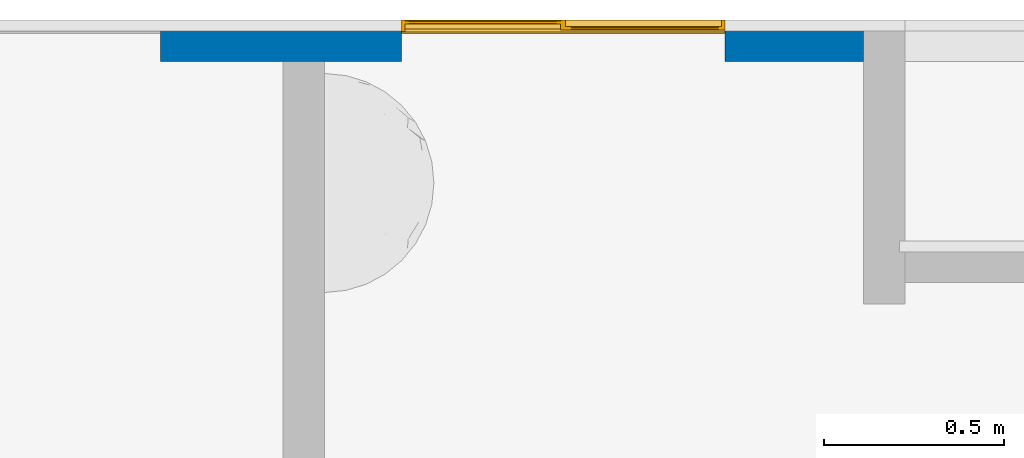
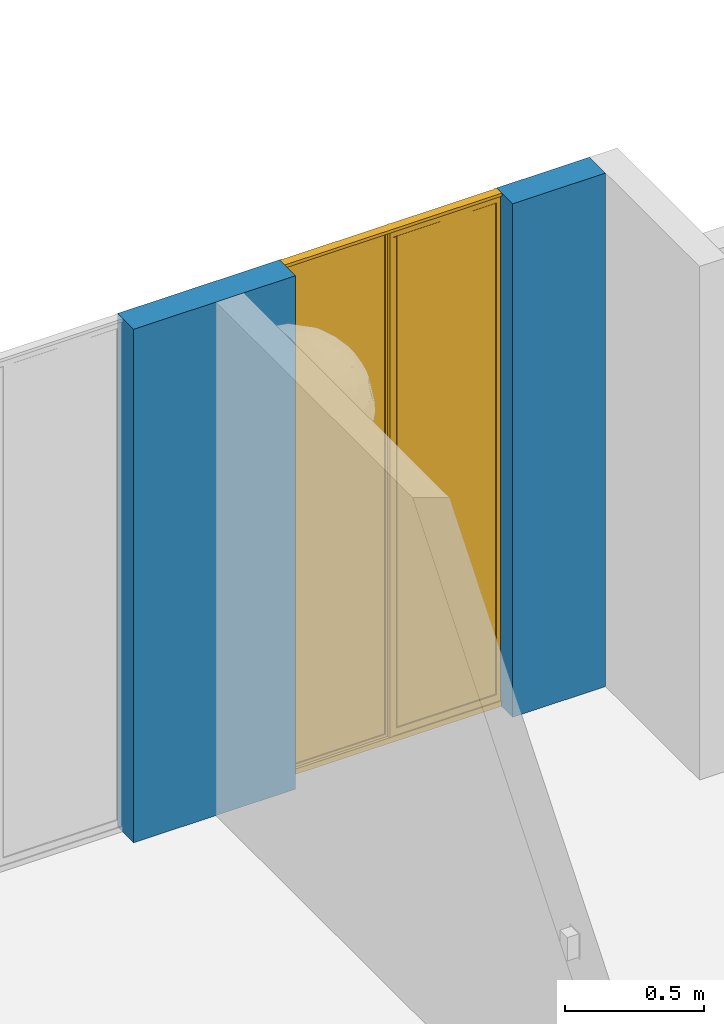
# One storey, part 18 of 51: 1 wall, 1 window, 2 openings.
"""IFC4 building model written with IfcOpenShell, lengths in metres."""

from ifc_helpers import new_model, entity, si_unit, converted_unit, derived_unit, direction, frame, origin, place, context, subcontext, project, spatial, indexed_curve, outline, extrude, polygons, source, transform, mapped, material, constituent, constituent_set, type_object, type_shapes, element, fill, save


model = new_model("IFC4")

# Units and contexts
model_context = context("Model", 3, precision=1e-05, world=origin(), true_north=direction((6.123031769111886e-17, 1.0)))
body_context = subcontext(model_context, "Body", "Model", "MODEL_VIEW")
ifc_project = project(units=[si_unit("LENGTHUNIT", "METRE"), si_unit("AREAUNIT", "SQUARE_METRE"), si_unit("VOLUMEUNIT", "CUBIC_METRE"), converted_unit("PLANEANGLEUNIT", "DEGREE", entity("IfcRatioMeasure", 0.017453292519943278), si_unit("PLANEANGLEUNIT", "RADIAN"), dimensions=[0, 0, 0, 0, 0, 0, 0]), si_unit("MASSUNIT", "GRAM", prefix="KILO"), derived_unit("MASSDENSITYUNIT", [(si_unit("MASSUNIT", "GRAM", prefix="KILO"), 1), (si_unit("LENGTHUNIT", "METRE"), -3)]), derived_unit("IONCONCENTRATIONUNIT", [(si_unit("MASSUNIT", "GRAM", prefix="KILO"), 1), (si_unit("LENGTHUNIT", "METRE"), -3)]), derived_unit("MOMENTOFINERTIAUNIT", [(si_unit("LENGTHUNIT", "METRE"), 4)]), si_unit("TIMEUNIT", "SECOND"), si_unit("FREQUENCYUNIT", "HERTZ"), si_unit("THERMODYNAMICTEMPERATUREUNIT", "DEGREE_CELSIUS"), derived_unit("THERMALTRANSMITTANCEUNIT", [(si_unit("MASSUNIT", "GRAM", prefix="KILO"), 1), (si_unit("THERMODYNAMICTEMPERATUREUNIT", "KELVIN"), -1), (si_unit("TIMEUNIT", "SECOND"), -3)]), derived_unit("THERMALCONDUCTANCEUNIT", [(si_unit("MASSUNIT", "GRAM", prefix="KILO"), 1), (si_unit("THERMODYNAMICTEMPERATUREUNIT", "KELVIN"), -1), (si_unit("TIMEUNIT", "SECOND"), -3), (si_unit("LENGTHUNIT", "METRE"), 1)]), derived_unit("VOLUMETRICFLOWRATEUNIT", [(si_unit("LENGTHUNIT", "METRE"), 3), (si_unit("TIMEUNIT", "SECOND"), -1)]), derived_unit("MASSFLOWRATEUNIT", [(si_unit("MASSUNIT", "GRAM", prefix="KILO"), 1), (si_unit("TIMEUNIT", "SECOND"), -1)]), derived_unit("ROTATIONALFREQUENCYUNIT", [(si_unit("TIMEUNIT", "SECOND"), -1)]), si_unit("ELECTRICCURRENTUNIT", "AMPERE"), si_unit("ELECTRICVOLTAGEUNIT", "VOLT"), si_unit("POWERUNIT", "WATT"), si_unit("FORCEUNIT", "NEWTON", prefix="KILO"), si_unit("ILLUMINANCEUNIT", "LUX"), si_unit("LUMINOUSFLUXUNIT", "LUMEN"), si_unit("LUMINOUSINTENSITYUNIT", "CANDELA"), derived_unit("USERDEFINED", [(si_unit("MASSUNIT", "GRAM", prefix="KILO"), -1), (si_unit("LENGTHUNIT", "METRE"), -2), (si_unit("TIMEUNIT", "SECOND"), 3), (si_unit("LUMINOUSFLUXUNIT", "LUMEN"), 1)]), derived_unit("USERDEFINED", [(si_unit("MASSUNIT", "GRAM", prefix="KILO"), 1), (si_unit("TIMEUNIT", "SECOND"), -3), (si_unit("LENGTHUNIT", "METRE"), 3), (si_unit("ELECTRICCURRENTUNIT", "AMPERE"), -2)]), derived_unit("SOUNDPOWERUNIT", [(si_unit("MASSUNIT", "GRAM", prefix="KILO"), 1), (si_unit("TIMEUNIT", "SECOND"), -3), (si_unit("LENGTHUNIT", "METRE"), 2)]), derived_unit("SOUNDPRESSUREUNIT", [(si_unit("MASSUNIT", "GRAM", prefix="KILO"), 1), (si_unit("LENGTHUNIT", "METRE"), -1), (si_unit("TIMEUNIT", "SECOND"), -2)]), derived_unit("LINEARVELOCITYUNIT", [(si_unit("LENGTHUNIT", "METRE"), 1), (si_unit("TIMEUNIT", "SECOND"), -1)]), si_unit("PRESSUREUNIT", "PASCAL"), derived_unit("USERDEFINED", [(si_unit("MASSUNIT", "GRAM", prefix="KILO"), 1), (si_unit("LENGTHUNIT", "METRE"), -2), (si_unit("TIMEUNIT", "SECOND"), -2)]), derived_unit("LINEARFORCEUNIT", [(si_unit("MASSUNIT", "GRAM", prefix="KILO"), 1), (si_unit("TIMEUNIT", "SECOND"), -2)]), derived_unit("PLANARFORCEUNIT", [(si_unit("MASSUNIT", "GRAM", prefix="KILO"), 1), (si_unit("LENGTHUNIT", "METRE"), -1), (si_unit("TIMEUNIT", "SECOND"), -2)]), derived_unit("SPECIFICHEATCAPACITYUNIT", [(si_unit("THERMODYNAMICTEMPERATUREUNIT", "KELVIN"), -1), (si_unit("LENGTHUNIT", "METRE"), 2), (si_unit("TIMEUNIT", "SECOND"), -2)]), derived_unit("HEATINGVALUEUNIT", [(si_unit("LENGTHUNIT", "METRE"), 2), (si_unit("TIMEUNIT", "SECOND"), -2)]), derived_unit("VAPORPERMEABILITYUNIT", [(si_unit("LENGTHUNIT", "METRE"), -1), (si_unit("TIMEUNIT", "SECOND"), 1)]), derived_unit("DYNAMICVISCOSITYUNIT", [(si_unit("MASSUNIT", "GRAM", prefix="KILO"), 1), (si_unit("TIMEUNIT", "SECOND"), -1), (si_unit("LENGTHUNIT", "METRE"), -1)]), derived_unit("THERMALEXPANSIONCOEFFICIENTUNIT", [(si_unit("THERMODYNAMICTEMPERATUREUNIT", "KELVIN"), -1)]), derived_unit("MODULUSOFELASTICITYUNIT", [(si_unit("MASSUNIT", "GRAM", prefix="KILO"), 1), (si_unit("LENGTHUNIT", "METRE"), -1), (si_unit("TIMEUNIT", "SECOND"), -2)]), derived_unit("ISOTHERMALMOISTURECAPACITYUNIT", [(si_unit("LENGTHUNIT", "METRE"), 3), (si_unit("MASSUNIT", "GRAM", prefix="KILO"), -1)]), derived_unit("MOISTUREDIFFUSIVITYUNIT", [(si_unit("TIMEUNIT", "SECOND"), -1), (si_unit("LENGTHUNIT", "METRE"), 2)])], contexts=[model_context])

# Site, building, storey
site_placement = place(None, origin())
site = spatial("IfcSite", under=ifc_project, at=site_placement, Name="Default", CompositionType="ELEMENT")
building_placement = place(site_placement, origin())
building = spatial("IfcBuilding", under=site, at=building_placement, CompositionType="ELEMENT")
storey_placement = place(building_placement, frame((0.0, 0.0, 2.350000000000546)))
storey = spatial("IfcBuildingStorey", under=building, at=storey_placement, Name="Nivel 2", CompositionType="ELEMENT", Elevation=2.350000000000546)

# Wall, openings, window
ifc_material_1 = material(Name="Ladrillo claro (Aire)", Category="Materials")
wall_type = type_object("IfcWallType", Name="Basic Wall:B2010 - 0.115m - Muro exterior en mampostería - Ladrillo", PredefinedType="STANDARD")
wall_placement = place(storey_placement, frame((6.067499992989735, -0.037500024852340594, 0.0), z_axis=(0.0, 0.0, 1.0), x_axis=(-1.0, 0.0, 0.0)))
wall = element("IfcWall", 1, at=wall_placement, inside=storey, type_object=wall_type, material=ifc_material_1, Name="Basic Wall:B2010 - 0.115m - Muro exterior en mampostería - Ladrillo", ObjectType="Basic Wall:B2010 - 0.115m - Muro exterior en mampostería - Ladrillo", PredefinedType="NOTDEFINED", context=body_context, shape_type="Tessellation", body=[
    polygons([(0.3850000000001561, -0.05750000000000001, 2.250000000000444), (1.7657632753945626e-17, -0.05750000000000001, 2.250000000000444), (1.1005247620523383e-15, -0.05750000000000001, -5.414335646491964e-16), (0.3850000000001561, -0.05750000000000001, -5.414335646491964e-16), (2.0818603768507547e-15, 0.05749999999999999, -5.414335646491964e-16), (0.38500000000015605, 0.05749999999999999, -5.414335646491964e-16), (0.38500000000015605, 0.05749999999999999, 2.250000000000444), (9.989932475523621e-16, 0.05749999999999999, 2.250000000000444)], [[[1, 2, 3, 4]], [[3, 5, 6, 4]], [[2, 1, 7, 8]], [[3, 2, 8, 5]], [[1, 4, 6, 7]], [[5, 8, 7, 6]]], closed=True),
    polygons([(1.2850000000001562, 0.05749999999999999, -5.414335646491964e-16), (1.2850000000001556, 0.05749999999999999, 2.250000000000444), (1.4999999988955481, 0.05749999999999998, 2.250000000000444), (1.6149999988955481, 0.05749999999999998, 2.250000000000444), (1.9557999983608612, 0.05749999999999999, 2.250000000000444), (1.9557999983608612, 0.05749999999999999, -5.414335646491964e-16), (1.6149999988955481, 0.05749999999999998, -2.707167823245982e-16), (1.4999999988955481, 0.05749999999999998, -2.707167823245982e-16), (1.9557999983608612, -0.05750000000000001, 2.250000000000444), (1.9557999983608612, -0.05750000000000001, -5.414335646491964e-16), (1.2850000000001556, -0.05750000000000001, -5.414335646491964e-16), (1.2850000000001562, -0.05750000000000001, 2.250000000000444)], [[[1, 2, 3, 4, 5, 6, 7, 8]], [[9, 10, 6, 5]], [[11, 12, 2, 1]], [[2, 12, 9, 5, 4, 3]], [[11, 1, 8, 7, 6, 10]], [[12, 11, 10, 9]]], closed=True),
])
opening_1_placement = place(wall_placement, frame((0.38500000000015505, -0.05750000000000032, 0.0)))
opening_1 = element("IfcOpeningElement", 2, at=opening_1_placement, cuts=wall, Name="B2020 - Ventana corrediza 2C - Aluminio + Vidrio:B2020 - 0.90m x 2.25m - Ventana corrediza 2C - Aluminio + Vidrio:1", PredefinedType="OPENING", context=body_context, shape_type="SweptSolid", body=[
    extrude(outline(indexed_curve([(0.0, 0.9), (0.0, 0.0), (2.249999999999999, 0.0), (2.249999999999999, 0.9), (0.0, 0.9)], self_intersect=False)), frame((0.0, 0.0, 0.0), z_axis=(0.0, 1.0, 0.0), x_axis=(0.0, 0.0, 1.0)), (0.0, 0.0, 1.0), 0.115),
])
opening_2_placement = place(wall_placement, frame((1.9557999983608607, -0.057500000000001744, 0.0)))
element("IfcOpeningElement", 3, at=opening_2_placement, cuts=wall, Name="B2020 - Ventana corrediza 2C - Aluminio + Vidrio:B2020 - 1.02m x 2.25m - Ventana corrediza 2C - Aluminio + Vidrio:1", PredefinedType="OPENING", context=body_context, shape_type="SweptSolid", body=[
    extrude(outline(indexed_curve([(0.0, 1.0199999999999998), (0.0, 0.0), (2.249999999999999, 0.0), (2.249999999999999, 1.0199999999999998), (0.0, 1.0199999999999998)], self_intersect=False)), frame((0.0, 0.0, 0.0), z_axis=(0.0, 1.0, 0.0), x_axis=(0.0, 0.0, 1.0)), (0.0, 0.0, 1.0), 0.115),
])
ifc_material_2 = material(Name="Vidrio", Category="Materials")
ifc_constituent_1 = constituent(ifc_material_2, Name="Vidrio", Category="Materials")
ifc_material_3 = material(Name="<Unnamed>")
ifc_constituent_2 = constituent(ifc_material_3, Name="<Unnamed>")
ifc_constituent_set_1 = constituent_set(constituents=[ifc_constituent_1, ifc_constituent_2])
ifc_constituent_3 = constituent(ifc_material_2, Name="Vidrio", Category="Materials")
ifc_constituent_4 = constituent(ifc_material_3, Name="<Unnamed>")
ifc_constituent_set_2 = constituent_set(constituents=[ifc_constituent_3, ifc_constituent_4])
window_type = type_object("IfcWindowType", Name="B2020 - Ventana corrediza 2C - Aluminio + Vidrio:B2020 - 0.90m x 2.25m - Ventana corrediza 2C - Aluminio + Vidrio", PartitioningType="NOTDEFINED", PredefinedType="WINDOW", material=ifc_constituent_set_2)
shared_shape = source(origin(), body_context, "Body", "Tessellation", [
    polygons([(0.4298128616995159, 0.11062877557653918, 0.028641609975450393), (0.4298128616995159, 0.10552744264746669, 0.028641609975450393), (0.019967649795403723, 0.10552744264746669, 0.028641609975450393), (0.019967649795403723, 0.11062877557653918, 0.028641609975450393), (0.4298128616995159, 0.11062877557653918, 2.2347073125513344), (0.4298128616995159, 0.10552744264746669, 2.2347073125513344), (0.019967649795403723, 0.10552744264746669, 2.2347073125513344), (0.019967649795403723, 0.11062877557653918, 2.2347073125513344)], [[[1, 2, 3, 4]], [[5, 6, 2, 1]], [[6, 7, 3, 2]], [[7, 8, 4, 3]], [[8, 5, 1, 4]], [[5, 8, 7, 6]]], closed=True),
    polygons([(0.8811536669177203, 0.09380899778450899, 0.054189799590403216), (0.8811536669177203, 0.0895130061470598, 0.054189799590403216), (0.47172894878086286, 0.0895130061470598, 0.054189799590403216), (0.47172894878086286, 0.09380899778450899, 0.054189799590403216), (0.8811536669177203, 0.09380899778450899, 2.2043993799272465), (0.8811536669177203, 0.0895130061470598, 2.2043993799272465), (0.47172894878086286, 0.0895130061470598, 2.2043993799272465), (0.47172894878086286, 0.09380899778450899, 2.2043993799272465)], [[[1, 2, 3, 4]], [[5, 6, 2, 1]], [[6, 7, 3, 2]], [[7, 8, 4, 3]], [[8, 5, 1, 4]], [[5, 8, 7, 6]]], closed=True),
    polygons([(0.9, 0.07999999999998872, 0.020380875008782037), (0.9, 0.07999999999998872, -2.5718094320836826e-15), (0.9000000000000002, 0.1149999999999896, -2.5718094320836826e-15), (0.9, 0.1150000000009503, 2.2499999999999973), (0.9000000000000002, 0.07720993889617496, 2.2499999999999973), (0.9000000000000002, 0.07720993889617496, 2.2365872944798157), (0.9000000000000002, 0.07857307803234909, 2.2365872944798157), (0.9000000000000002, 0.07857307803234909, 2.24863686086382), (0.9, 0.08683610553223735, 2.24863686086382), (0.9, 0.08683610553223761, 0.017447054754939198), (0.9, 0.08124999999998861, 0.017447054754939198), (0.9, 0.08124999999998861, 0.02163087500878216), (0.9, 0.078577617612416, 0.02163087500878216), (0.9, 0.078577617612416, 0.025674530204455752), (0.9, 0.077327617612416, 0.025674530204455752), (0.9, 0.077327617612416, 0.020380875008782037), (1.353583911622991e-16, 0.07999999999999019, 0.020380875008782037), (1.353583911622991e-16, 0.07999999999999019, -2.5718094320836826e-15), (2.0303758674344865e-16, 0.11499999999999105, -2.5718094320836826e-15), (0.44335450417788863, 0.1149999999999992, 2.2499999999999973), (0.45664549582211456, 0.11499999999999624, 2.2499999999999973), (0.45664549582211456, 0.1149999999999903, 0.006176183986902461), (0.8901022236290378, 0.1149999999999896, 0.006176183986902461), (0.890102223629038, 0.1150000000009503, 2.2499999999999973), (1.353583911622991e-16, 0.1150000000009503, 2.2499999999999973), (0.009999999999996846, 0.11500000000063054, 2.2499999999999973), (0.009999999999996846, 0.11499999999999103, 0.006176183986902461), (0.44335450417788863, 0.11499999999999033, 0.006176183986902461), (0.883701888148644, 0.08683610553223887, 2.2069861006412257), (0.8837018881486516, 0.08683610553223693, 0.0519155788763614), (0.46918072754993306, 0.08683610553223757, 0.0519155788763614), (0.46918072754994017, 0.08683610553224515, 2.2043993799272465), (0.45664549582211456, 0.08683610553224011, 2.2043993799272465), (0.45664549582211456, 0.08683610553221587, 2.2069861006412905), (0.8837018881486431, 0.08683610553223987, 2.237270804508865), (0.45664549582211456, 0.08683610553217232, 2.237270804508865), (0.45664549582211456, 0.08683610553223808, 2.24863686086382), (0.4419528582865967, 0.08683610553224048, 2.24863686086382), (0.4419528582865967, 0.08683610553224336, 0.01744705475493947), (0.45664549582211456, 0.08683610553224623, 0.017447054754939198), (0.45664549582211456, 0.08683610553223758, 0.021630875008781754), (0.8962371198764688, 0.08683610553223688, 0.02163087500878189), (0.8962371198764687, 0.08683610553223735, 0.01744705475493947), (0.8837018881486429, 0.08683610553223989, 2.24863686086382), (1.353583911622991e-16, 0.08124999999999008, 0.017447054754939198), (0.8962371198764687, 0.09036136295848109, 0.017447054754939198), (0.45664549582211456, 0.09036136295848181, 0.017447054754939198), (0.4419528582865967, 0.09036136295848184, 0.017447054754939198), (0.009999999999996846, 0.09036136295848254, 0.017447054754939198), (0.009999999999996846, 0.08300000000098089, 0.017447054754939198), (2.0303758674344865e-16, 0.08300000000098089, 0.017447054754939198), (1.353583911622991e-16, 0.08124999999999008, 0.02163087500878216), (1.353583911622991e-16, 0.07857761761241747, 0.02163087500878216), (1.353583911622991e-16, 0.07857761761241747, 0.025674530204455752), (1.353583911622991e-16, 0.07732761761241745, 0.025674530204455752), (1.353583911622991e-16, 0.07732761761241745, 0.020380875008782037), (0.8811570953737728, 0.09380711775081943, 0.054191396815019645), (0.8837018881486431, 0.09648589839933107, 0.051915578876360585), (0.4691807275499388, 0.09648589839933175, 0.051915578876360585), (0.47172276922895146, 0.09380452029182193, 0.054191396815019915), (0.8837018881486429, 0.09648589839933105, 2.237270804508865), (0.8811536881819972, 0.09378706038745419, 2.237270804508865), (0.8811536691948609, 0.09378696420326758, 2.24863686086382), (0.8837018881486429, 0.09648589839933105, 2.24863686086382), (0.8837018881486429, 0.096485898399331, 2.2069861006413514), (0.45664549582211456, 0.09648589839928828, 2.2069861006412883), (0.45664549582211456, 0.09648589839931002, 2.237270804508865), (0.890102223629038, 0.09648589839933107, 2.24863686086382), (0.8901022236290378, 0.09648589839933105, 0.021630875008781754), (0.45664549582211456, 0.09648589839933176, 0.02163087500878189), (0.45664549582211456, 0.0964858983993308, 2.2043993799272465), (0.46918072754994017, 0.0964858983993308, 2.2043993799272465), (0.47172894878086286, 0.09379974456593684, 2.2043993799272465), (0.881159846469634, 0.08951748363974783, 0.05419139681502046), (0.47172552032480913, 0.08951488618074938, 0.054191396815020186), (0.8811537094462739, 0.08953496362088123, 2.237270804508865), (0.8811536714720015, 0.08953504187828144, 2.24863686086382), (0.47172894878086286, 0.08952215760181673, 2.204399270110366), (0.4419528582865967, 0.10334183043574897, 2.24863686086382), (0.4419528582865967, 0.10334183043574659, 0.014402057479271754), (0.4419528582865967, 0.09363692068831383, 0.014402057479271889), (0.4419528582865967, 0.09363692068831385, 0.010600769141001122), (0.4419528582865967, 0.09036136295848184, 0.011279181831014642), (0.45664549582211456, 0.11281438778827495, 2.2499999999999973), (0.45664549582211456, 0.11281438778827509, 2.2369062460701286), (0.45664549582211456, 0.11061545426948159, 2.2347073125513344), (0.45664549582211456, 0.10554076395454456, 2.2347073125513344), (0.45664549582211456, 0.10334183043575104, 2.2369062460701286), (0.45664549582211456, 0.10334183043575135, 2.24863686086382), (0.45664549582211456, 0.09380888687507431, 2.204399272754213), (0.45664549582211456, 0.09036136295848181, 0.011279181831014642), (0.8962371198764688, 0.09648589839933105, 0.02163087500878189), (0.8962371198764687, 0.09648589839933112, 0.010010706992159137), (0.8962371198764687, 0.09036136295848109, 0.011279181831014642), (0.890102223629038, 0.09648589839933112, 0.010010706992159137), (0.8901022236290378, 0.10334183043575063, 2.24863686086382), (0.890102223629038, 0.10334183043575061, 2.2369062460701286), (0.8901022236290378, 0.10554076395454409, 2.234707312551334), (0.8901022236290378, 0.11061545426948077, 2.234707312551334), (0.8901022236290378, 0.11281438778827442, 2.2369062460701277), (0.8901022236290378, 0.11281438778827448, 2.2499999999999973), (1.353583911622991e-16, 0.08300000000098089, 2.24863686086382), (1.353583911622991e-16, 0.07857307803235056, 2.24863686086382), (1.353583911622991e-16, 0.07857307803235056, 2.2365872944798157), (1.353583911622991e-16, 0.07720993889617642, 2.2365872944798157), (2.0303758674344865e-16, 0.07720993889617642, 2.2499999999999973), (0.009999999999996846, 0.08300000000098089, 2.24863686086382), (0.009999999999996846, 0.09036136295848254, 0.011279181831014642), (0.009999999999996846, 0.09363692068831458, 0.010600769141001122), (0.009999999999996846, 0.09363692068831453, 0.014402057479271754), (0.009999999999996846, 0.10334183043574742, 0.014402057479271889), (0.009999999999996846, 0.10334183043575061, 2.24863686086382), (0.44335450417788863, 0.11281438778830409, 0.006628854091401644), (0.44335450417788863, 0.112814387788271, 2.2499999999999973), (0.009999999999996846, 0.11281438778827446, 2.2499999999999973), (0.009999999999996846, 0.11281438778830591, 0.0066288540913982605), (0.4323610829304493, 0.11281438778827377, 0.026824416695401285), (0.42981286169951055, 0.1106287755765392, 0.028641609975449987), (0.4298128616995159, 0.1106287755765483, 2.2347139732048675), (0.43236108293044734, 0.112814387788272, 2.236906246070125), (0.01996764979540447, 0.11062877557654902, 0.028641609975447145), (0.01741942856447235, 0.11281438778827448, 0.026824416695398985), (0.01741942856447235, 0.11281438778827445, 2.236906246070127), (0.019967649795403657, 0.11062877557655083, 2.2347139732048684), (0.019967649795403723, 0.10552744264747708, 0.028641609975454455), (0.01741942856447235, 0.10334183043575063, 0.026824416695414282), (0.43236108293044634, 0.10334183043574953, 0.02682441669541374), (0.4298128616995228, 0.10552744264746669, 0.028641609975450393), (0.01996880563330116, 0.10553009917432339, 2.234711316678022), (0.017419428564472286, 0.10334183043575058, 2.2369062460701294), (0.432361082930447, 0.10334183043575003, 2.2369062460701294), (0.4298117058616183, 0.10553009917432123, 2.234711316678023), (0.8811537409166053, 0.09378737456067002, 2.2043889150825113), (0.8811555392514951, 0.08953032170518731, 2.2043931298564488), (0.45664549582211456, 0.08951317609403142, 2.204399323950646)], [[[1, 2, 3, 4, 5, 6, 7, 8, 9, 10, 11, 12, 13, 14, 15, 16]], [[17, 18, 2, 1]], [[2, 18, 19, 3]], [[20, 21, 22, 23, 24, 4, 3, 19, 25, 26, 27, 28]], [[35, 36, 37, 38, 39, 40, 41, 42, 43, 10, 9, 44], [29, 30, 31, 32, 33, 34]], [[45, 11, 10, 43, 46, 47, 40, 39, 48, 49, 50, 51]], [[45, 52, 12, 11]], [[52, 53, 13, 12]], [[53, 54, 14, 13]], [[54, 55, 15, 14]], [[55, 56, 16, 15]], [[56, 17, 1, 16]], [[57, 58, 59, 60]], [[61, 62, 63, 64]], [[58, 65, 66, 67, 61, 64, 68, 69, 70, 71, 72, 59]], [[72, 73, 60, 59]], [[74, 57, 60, 75]], [[62, 76, 77, 63]], [[60, 73, 78, 75]], [[30, 74, 75, 31]], [[76, 35, 44, 77]], [[78, 32, 31, 75]], [[48, 39, 38, 79, 80, 81, 82, 83]], [[22, 21, 84, 85, 86, 87, 88, 89, 37, 36, 67, 66, 90, 71, 70, 41, 40, 47, 91]], [[41, 70, 69, 92, 42]], [[92, 93, 94, 46, 43, 42]], [[69, 95, 93, 92]], [[24, 23, 95, 69, 68, 96, 97, 98, 99, 100, 101]], [[17, 56, 55, 54, 53, 52, 45, 51, 102, 103, 104, 105, 106, 25, 19, 18]], [[51, 50, 107, 102]], [[48, 83, 108, 49]], [[50, 49, 108, 109, 110, 111, 112, 107]], [[83, 82, 109, 108]], [[113, 114, 20, 28]], [[26, 115, 116, 27]], [[84, 101, 100, 85]], [[82, 81, 110, 109]], [[117, 118, 119, 120]], [[121, 122, 123, 124]], [[122, 121, 118, 117]], [[125, 126, 127, 128]], [[88, 97, 96, 89]], [[126, 125, 129, 130]], [[128, 127, 131, 132]], [[81, 80, 111, 110]], [[125, 121, 124, 129]], [[121, 125, 128, 118]], [[118, 128, 132, 119]], [[5, 4, 24, 101, 84, 21, 20, 114, 115, 26, 25, 106]], [[65, 133, 73, 90, 66]], [[133, 134, 78, 73]], [[134, 29, 34, 135, 78]], [[76, 62, 61, 67, 36, 35]], [[33, 32, 78, 135]], [[104, 103, 8, 7]], [[105, 104, 7, 6]], [[106, 105, 6, 5]], [[123, 120, 119, 124]], [[132, 129, 124, 119]], [[131, 130, 129, 132]], [[8, 103, 102, 107, 112, 79, 38, 37, 89, 96, 68, 64, 63, 77, 44, 9]], [[87, 98, 97, 88]], [[86, 99, 98, 87]], [[85, 100, 99, 86]], [[73, 72, 71, 90]], [[111, 80, 79, 112], [127, 126, 130, 131]], [[115, 114, 113, 116], [117, 120, 123, 122]], [[113, 28, 27, 116]], [[22, 91, 94, 93, 95, 23]], [[91, 47, 46, 94]], [[135, 34, 33]], [[74, 30, 29, 134]], [[57, 74, 134, 133]], [[58, 57, 133, 65]]], closed=True),
])
type_shapes(window_type, [shared_shape])
window_placement = place(opening_1_placement, frame((0.9000000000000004, 0.11499999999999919, 0.0), z_axis=(0.0, 0.0, 1.0), x_axis=(-1.0, 0.0, 0.0)))
window = element("IfcWindow", 4, at=window_placement, inside=storey, type_object=window_type, material=ifc_constituent_set_1, Name="B2020 - Ventana corrediza 2C - Aluminio + Vidrio:B2020 - 0.90m x 2.25m - Ventana corrediza 2C - Aluminio + Vidrio", ObjectType="B2020 - Ventana corrediza 2C - Aluminio + Vidrio:B2020 - 0.90m x 2.25m - Ventana corrediza 2C - Aluminio + Vidrio", OverallHeight=2.249999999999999, OverallWidth=0.9, PartitioningType="NOTDEFINED", PredefinedType="WINDOW", context=body_context, shape_type="MappedRepresentation", body=[
    mapped(shared_shape, transform((0.0, 0.0, 0.0), scale=1.0)),
])
fill(opening_1, window)

save(model, "model.ifc")
